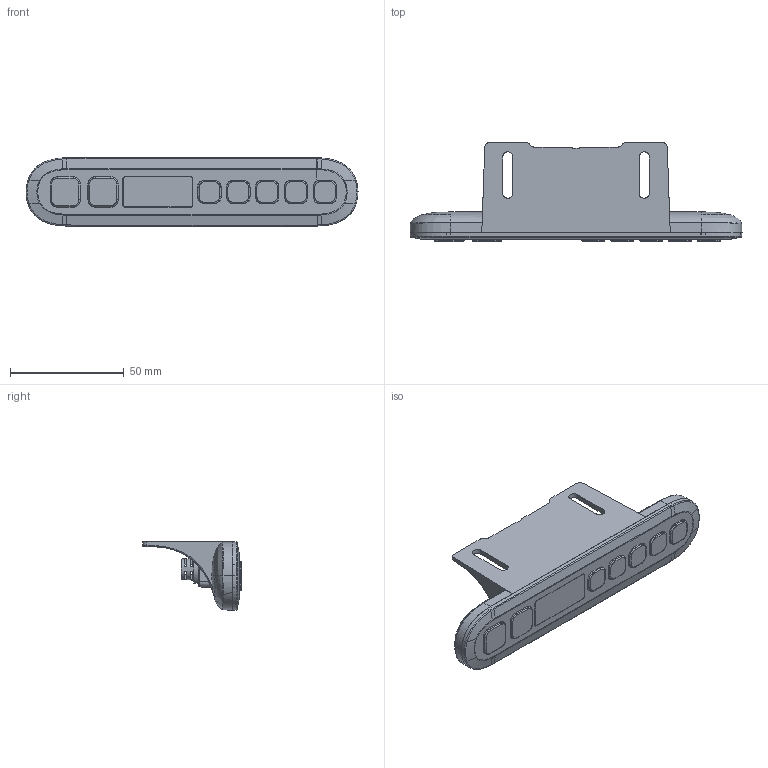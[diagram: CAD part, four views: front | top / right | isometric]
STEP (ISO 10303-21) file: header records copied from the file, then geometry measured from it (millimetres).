
FILE_DESCRIPTION(/* description */ ('Unknown'),/* implementation_level */ '2;1');
FILE_NAME(/* name */ '124.00861_00',/* time_stamp */ '2025-10-31T17:48:47+01:00',/* author */ ('Unknown'),/* organization */ ('Unknown'),/* preprocessor_version */ 'ST-DEVELOPER v20',/* originating_system */ 'Solid Edge',/* authorisation */ 'Unknown');
FILE_SCHEMA (('AUTOMOTIVE_DESIGN {1 0 10303 214 3 1 1}'));
Length unit declared in the file: millimetre
Products named in the file (1): 124
Bounding box: 146 x 43.5 x 30.06 mm (x, y, z)
Surface area: 25359.9 mm2 (no closed solid volume)
Topology: 0 solids, 2 shells, 534 faces, 1399 edges, 887 vertices
Faces by surface type: plane 197, cylinder 111, bspline 97, cone 96, torus 33
Full cylindrical faces by diameter (mm): 4.799 x1
Entity records: 26301 total; most frequent: CARTESIAN_POINT 12103, ORIENTED_EDGE 2766, DIRECTION 1958, EDGE_CURVE 1399, VERTEX_POINT 887, AXIS2_PLACEMENT_3D 745, B_SPLINE_CURVE_WITH_KNOTS 592, EDGE_LOOP 576
